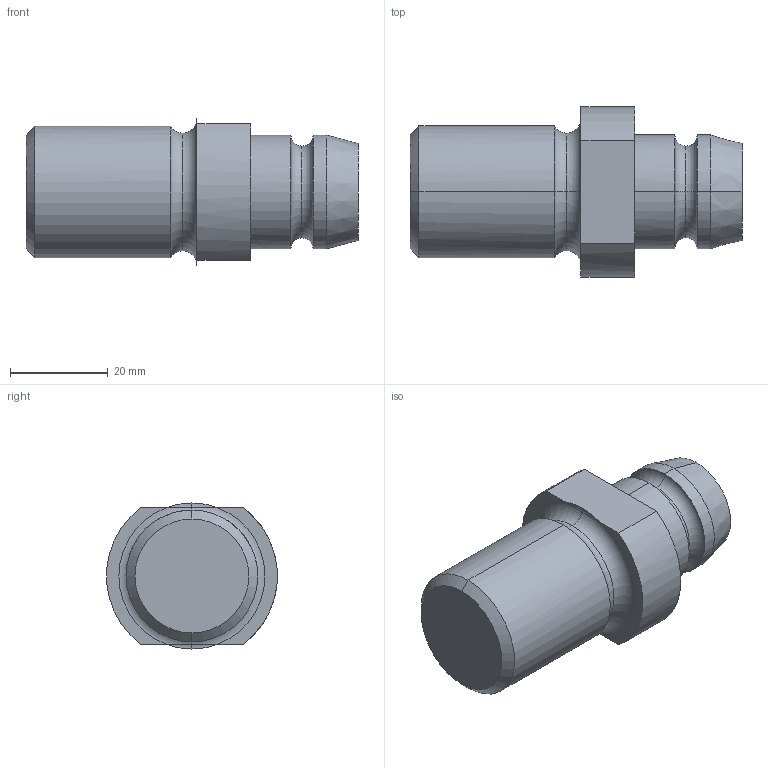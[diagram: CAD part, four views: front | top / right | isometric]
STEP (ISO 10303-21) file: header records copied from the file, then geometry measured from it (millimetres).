
FILE_DESCRIPTION(('CATIA V5 STEP Exchange'),'2;1');
FILE_NAME('C:\Users\Utente\Desktop\IO LAVORO\3D X SITO CF\X SITO\PLASTICA\AGS\AGS3411M27.stp','2021-02-21T19:25:13+00:00',('none'),('none'),'CATIA Version 5 Release 20 GA (IN-10)','CATIA V5 STEP AP203','none');
FILE_SCHEMA(('CONFIG_CONTROL_DESIGN'));
Length unit declared in the file: millimetre
Products named in the file (1): AGS3411M27
Bounding box: 68 x 34.91 x 29.92 mm (x, y, z)
Volume: 37450.6 mm3; surface area: 7426.4 mm2
Topology: 1 solids, 1 shells, 29 faces, 76 edges, 50 vertices
Faces by surface type: plane 9, cylinder 8, torus 8, cone 4
Entity records: 988 total; most frequent: CARTESIAN_POINT 246, ORIENTED_EDGE 152, DIRECTION 125, EDGE_CURVE 76, AXIS2_PLACEMENT_3D 75, VERTEX_POINT 50, CIRCLE 45, EDGE_LOOP 30
